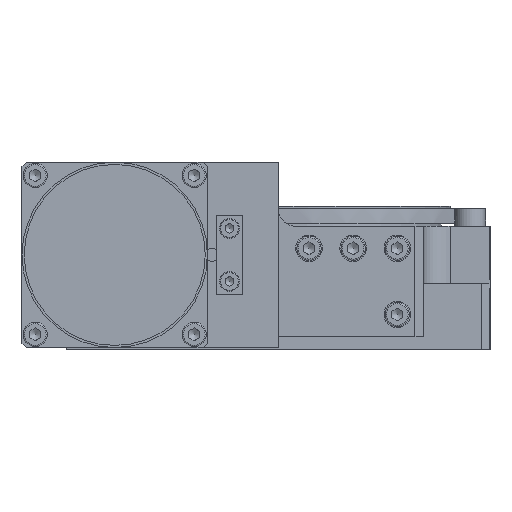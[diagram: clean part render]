
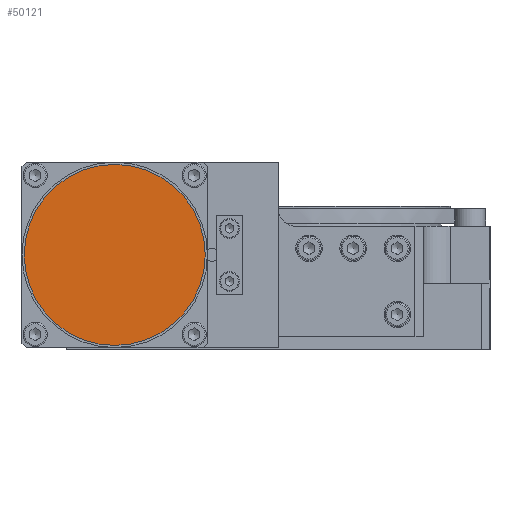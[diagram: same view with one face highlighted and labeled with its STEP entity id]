
A CAD part, front view. The second image highlights one B-rep face of the part: STEP entity #50121.
In plain terms, the highlighted planar face has unit normal (0, -1, 0).
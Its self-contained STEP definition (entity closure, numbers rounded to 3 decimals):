
#12427=PLANE($,#53073);
#15099=FACE_OUTER_BOUND($,#17968,.T.);
#17968=EDGE_LOOP($,(#35160));
#21064=CIRCLE($,#53074,20.5);
#22247=VERTEX_POINT($,#69123);
#27415=EDGE_CURVE($,#22247,#22247,#21064,.T.);
#35160=ORIENTED_EDGE($,*,*,#27415,.F.);
#50121=ADVANCED_FACE($,(#15099),#12427,.F.);
#53073=AXIS2_PLACEMENT_3D($,#69122,#56851,#56852);
#53074=AXIS2_PLACEMENT_3D($,#69124,#56853,#56854);
#56851=DIRECTION('center_axis',(0.,1.,0.));
#56852=DIRECTION('ref_axis',(0.,0.,1.));
#56853=DIRECTION('center_axis',(0.,1.,0.));
#56854=DIRECTION('ref_axis',(0.,0.,
1.));
#69122=CARTESIAN_POINT('Origin',(11.,-69.5,21.5));
#69123=CARTESIAN_POINT('',(11.,-69.5,1.));
#69124=CARTESIAN_POINT('Origin',(11.,-69.5,21.5));
